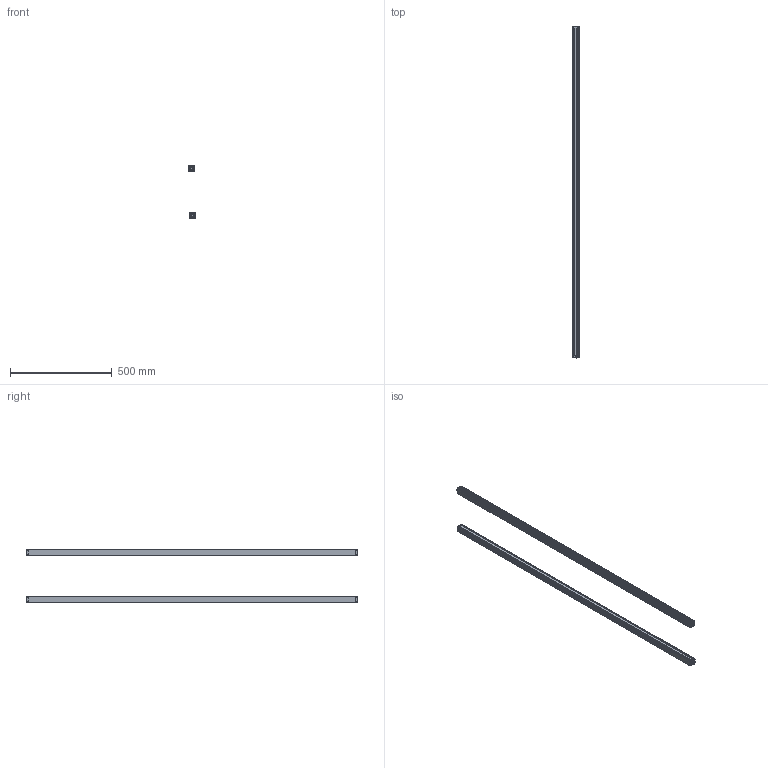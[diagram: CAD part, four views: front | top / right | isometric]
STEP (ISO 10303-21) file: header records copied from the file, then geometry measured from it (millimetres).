
FILE_DESCRIPTION (( 'STEP AP203' ), '1' );
FILE_NAME ('ZDA8020-1610.STEP', '2022-09-12T01:53:49', ( 'Windows 蚚誧' ), ( 'Organization' ), 'SwSTEP 2.0', 'SolidWorks 2020', '' );
FILE_SCHEMA (( 'CONFIG_CONTROL_DESIGN' ));
Length unit declared in the file: millimetre
Products named in the file (5): 錨璃8; 錨璃8 - 萵掛 (2); 錨璃10; ZDA8020-1610; 錨璃1
Assembly tree (8 placements, depth 2):
  ZDA8020-1610
    錨璃1  x2
    錨璃8  x2
    錨璃8 - 萵掛 (2)  x2
    錨璃10  x2
Bounding box: 32.36 x 1631.4 x 260.35 mm (x, y, z)
Volume: 1014355 mm3; surface area: 1070488.9 mm2
Topology: 8 solids, 8 shells, 1032 faces, 2690 edges, 1668 vertices
Faces by surface type: plane 464, cylinder 310, cone 120, bspline 58, torus 48, sphere 32
Entity records: 17901 total; most frequent: CARTESIAN_POINT 4731, ORIENTED_EDGE 2666, DIRECTION 2616, EDGE_CURVE 1333, AXIS2_PLACEMENT_3D 894, VERTEX_POINT 834, LINE 828, VECTOR 828
